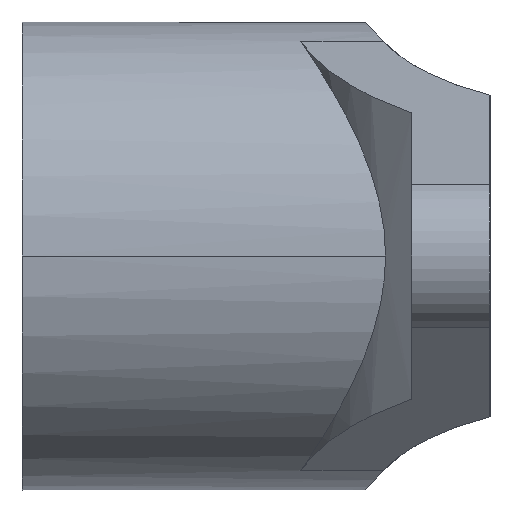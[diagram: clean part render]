
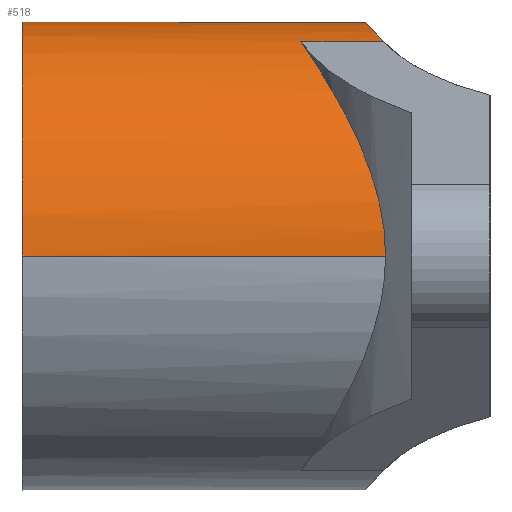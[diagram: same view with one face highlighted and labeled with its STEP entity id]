
A CAD part, left-side view. The second image highlights one B-rep face of the part: STEP entity #518.
In plain terms, the highlighted cylindrical face has radius 1905 mm (diameter 3810 mm), a partial arc.
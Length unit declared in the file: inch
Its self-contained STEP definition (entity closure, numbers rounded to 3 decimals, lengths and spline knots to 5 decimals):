
#1=CARTESIAN_POINT('',(-75.,8.48469,75.));
#2=CARTESIAN_POINT('',(-75.,8.48469,77.5783));
#3=CARTESIAN_POINT('',(-74.74179,8.75024,82.9133));
#4=CARTESIAN_POINT('',(-73.31087,10.18615,91.67353));
#5=CARTESIAN_POINT('',(-70.7314,12.64198,100.53095));
#6=CARTESIAN_POINT('',(-66.86697,16.02581,109.44584));
#7=CARTESIAN_POINT('',(-61.65329,20.09961,118.12675));
#8=CARTESIAN_POINT('',(-54.97388,24.59594,126.39119));
#9=CARTESIAN_POINT('',(-47.18507,28.94945,133.60972));
#10=CARTESIAN_POINT('',(-38.75952,32.73025,139.46783));
#11=CARTESIAN_POINT('',(-32.94923,34.74377,142.45149));
#12=CARTESIAN_POINT('',(-30.,35.62306,143.73864));
#39=CARTESIAN_POINT('',(30.,35.62306,143.73864));
#40=CARTESIAN_POINT('',(32.95021,34.74348,142.45106));
#41=CARTESIAN_POINT('',(38.76261,32.72913,139.46615));
#42=CARTESIAN_POINT('',(47.19148,28.9464,133.60497));
#43=CARTESIAN_POINT('',(54.98356,24.59,126.38088));
#44=CARTESIAN_POINT('',(61.66007,20.09467,118.11715));
#45=CARTESIAN_POINT('',(66.87549,16.01885,109.4299));
#46=CARTESIAN_POINT('',(70.73912,12.63492,100.51024));
#47=CARTESIAN_POINT('',(73.317,10.18012,91.64661));
#48=CARTESIAN_POINT('',(74.74338,8.74859,82.89334));
#49=CARTESIAN_POINT('',(75.,8.48469,77.57035));
#50=CARTESIAN_POINT('',(75.,8.48469,75.));
#81=DIRECTION('',(0.,1.,0.));
#82=VECTOR('',#81,26.46107);
#83=CARTESIAN_POINT('',(-30.,9.16198,143.73864));
#84=LINE('',#83,#82);
#85=DIRECTION('',(0.,-1.,0.));
#86=VECTOR('',#85,116.51531);
#87=CARTESIAN_POINT('',(75.,125.,75.));
#88=LINE('',#87,#86);
#89=DIRECTION('',(0.,1.,0.));
#90=VECTOR('',#89,26.46107);
#91=CARTESIAN_POINT('',(30.,9.16198,143.73864));
#92=LINE('',#91,#90);
#124=DIRECTION('',(0.,-1.,0.));
#125=VECTOR('',#124,116.51531);
#126=CARTESIAN_POINT('',(-75.,125.,75.));
#127=LINE('',#126,#125);
#183=CARTESIAN_POINT('',(30.,9.16198,143.73864));
#184=CARTESIAN_POINT('',(27.15565,10.31258,144.98001));
#185=CARTESIAN_POINT('',(21.4067,12.25483,147.06647));
#186=CARTESIAN_POINT('',(12.83121,14.12252,149.06385));
#187=CARTESIAN_POINT('',(4.27099,15.0384,150.04097));
#188=CARTESIAN_POINT('',(-4.27104,15.03839,150.04097));
#189=CARTESIAN_POINT('',(-12.83115,14.12252,149.06386));
#190=CARTESIAN_POINT('',(-21.40667,12.25484,147.06648));
#191=CARTESIAN_POINT('',(-27.15564,10.31259,144.98002));
#192=CARTESIAN_POINT('',(-30.,9.16198,143.73864));
#194=CARTESIAN_POINT('',(30.,9.16198,143.73864));
#354=CARTESIAN_POINT('',(0.,125.,75.));
#355=DIRECTION('',(0.,-1.,0.));
#356=DIRECTION('',(1.,0.,0.));
#357=AXIS2_PLACEMENT_3D('',#354,#355,#356);
#406=VERTEX_POINT('',#194);
#408=VERTEX_POINT('',#192);
#421=CARTESIAN_POINT('',(75.,125.,75.));
#422=CARTESIAN_POINT('',(-75.,125.,75.));
#423=VERTEX_POINT('',#421);
#424=VERTEX_POINT('',#422);
#425=VERTEX_POINT('',#1);
#426=VERTEX_POINT('',#12);
#427=VERTEX_POINT('',#39);
#428=VERTEX_POINT('',#50);
#497=CARTESIAN_POINT('',(0.,-25.,75.));
#498=DIRECTION('',(0.,-1.,0.));
#499=DIRECTION('',(1.,0.,0.));
#500=AXIS2_PLACEMENT_3D('',#497,#498,#499);
#501=CYLINDRICAL_SURFACE('',#500,75.);
#502=ORIENTED_EDGE('',*,*,#484,.F.);
#504=ORIENTED_EDGE('',*,*,#503,.F.);
#506=ORIENTED_EDGE('',*,*,#505,.T.);
#508=ORIENTED_EDGE('',*,*,#507,.T.);
#509=ORIENTED_EDGE('',*,*,#466,.F.);
#511=ORIENTED_EDGE('',*,*,#510,.F.);
#513=ORIENTED_EDGE('',*,*,#512,.F.);
#515=ORIENTED_EDGE('',*,*,#514,.T.);
#516=EDGE_LOOP('',(#502,#504,#506,#508,#509,#511,#513,#515));
#517=FACE_OUTER_BOUND('',#516,.F.);
#518=ADVANCED_FACE('',(#517),#501,.T.);
#13=B_SPLINE_CURVE_WITH_KNOTS('',3,(#1,#2,#3,#4,#5,#6,#7,#8,#9,#10,#11,#12),
.UNSPECIFIED.,.F.,.F.,(4,1,1,1,1,1,1,1,1,4),(0.,0.11111,
0.22222,0.33333,0.44444,0.55556,
0.66667,0.77778,0.88889,1.),.UNSPECIFIED.);
#51=B_SPLINE_CURVE_WITH_KNOTS('',3,(#39,#40,#41,#42,#43,#44,#45,#46,#47,#48,#49,
#50),.UNSPECIFIED.,.F.,.F.,(4,1,1,1,1,1,1,1,1,4),(0.,0.11111,
0.22222,0.33333,0.44444,0.55556,
0.66667,0.77778,0.88889,1.),.UNSPECIFIED.);
#193=B_SPLINE_CURVE_WITH_KNOTS('',3,(#183,#184,#185,#186,#187,#188,#189,#190,
#191,#192),.UNSPECIFIED.,.F.,.F.,(4,1,1,1,1,1,1,4),(0.,0.14286,
0.28571,0.42857,0.57143,0.71429,
0.85714,1.),.UNSPECIFIED.);
#358=CIRCLE('',#357,75.);
#466=EDGE_CURVE('',#425,#426,#13,.T.);
#484=EDGE_CURVE('',#427,#428,#51,.T.);
#503=EDGE_CURVE('',#406,#427,#92,.T.);
#505=EDGE_CURVE('',#406,#408,#193,.T.);
#507=EDGE_CURVE('',#408,#426,#84,.T.);
#510=EDGE_CURVE('',#424,#425,#127,.T.);
#512=EDGE_CURVE('',#423,#424,#358,.T.);
#514=EDGE_CURVE('',#423,#428,#88,.T.);
